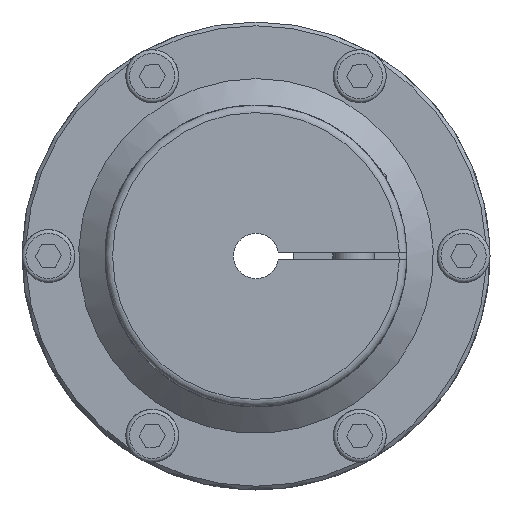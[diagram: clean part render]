
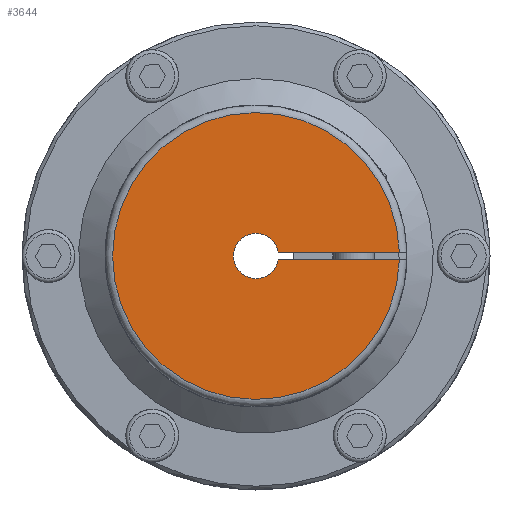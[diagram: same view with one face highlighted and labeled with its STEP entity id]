
A CAD part, left-side view. The second image highlights one B-rep face of the part: STEP entity #3644.
In plain terms, the highlighted planar face has unit normal (-1, 0, 0).
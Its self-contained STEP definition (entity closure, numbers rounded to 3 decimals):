
#387=LINE('',#5832,#633);
#388=LINE('',#5833,#634);
#633=VECTOR('',#4639,1000.);
#634=VECTOR('',#4640,1000.);
#1151=ORIENTED_EDGE('',*,*,#2076,.F.);
#1152=ORIENTED_EDGE('',*,*,#2075,.F.);
#1153=ORIENTED_EDGE('',*,*,#2077,.F.);
#1154=ORIENTED_EDGE('',*,*,#1826,.T.);
#1826=EDGE_CURVE('',#2360,#2358,#2722,.T.);
#2075=EDGE_CURVE('',#2541,#2540,#2802,.T.);
#2076=EDGE_CURVE('',#2540,#2358,#387,.T.);
#2077=EDGE_CURVE('',#2360,#2541,#388,.T.);
#2358=VERTEX_POINT('',#5155);
#2360=VERTEX_POINT('',#5158);
#2540=VERTEX_POINT('',#5827);
#2541=VERTEX_POINT('',#5829);
#2722=CIRCLE('',#3821,19.);
#2802=CIRCLE('',#3974,3.);
#2961=EDGE_LOOP('',(#1151,#1152,#1153,#1154));
#3252=FACE_BOUND('',#2961,.T.);
#3509=PLANE('',#3975);
#3644=ADVANCED_FACE('',(#3252),#3509,.T.);
#3821=AXIS2_PLACEMENT_3D('',#5157,#4195,#4196);
#3974=AXIS2_PLACEMENT_3D('',#5830,#4635,#4636);
#3975=AXIS2_PLACEMENT_3D('',#5831,#4637,#4638);
#4195=DIRECTION('',(-1.,0.,0.));
#4196=DIRECTION('',(0.,0.,1.));
#4635=DIRECTION('',(-1.,0.,0.));
#4636=DIRECTION('',(0.,0.,1.));
#4637=DIRECTION('',(-1.,0.,0.));
#4638=DIRECTION('',(0.,0.,1.));
#4639=DIRECTION('',(0.,-1.,0.));
#4640=DIRECTION('',(0.,1.,0.));
#5155=CARTESIAN_POINT('',(0.,-18.993,-0.5));
#5157=CARTESIAN_POINT('',(0.,0.,0.));
#5158=CARTESIAN_POINT('',(0.,-18.993,0.5));
#5827=CARTESIAN_POINT('',(0.,-2.958,-0.5));
#5829=CARTESIAN_POINT('',(0.,-2.958,0.5));
#5830=CARTESIAN_POINT('',(0.,0.,0.));
#5831=CARTESIAN_POINT('',(0.,0.,3.));
#5832=CARTESIAN_POINT('',(0.,1.366,-0.5));
#5833=CARTESIAN_POINT('',(0.,-22.095,0.5));
